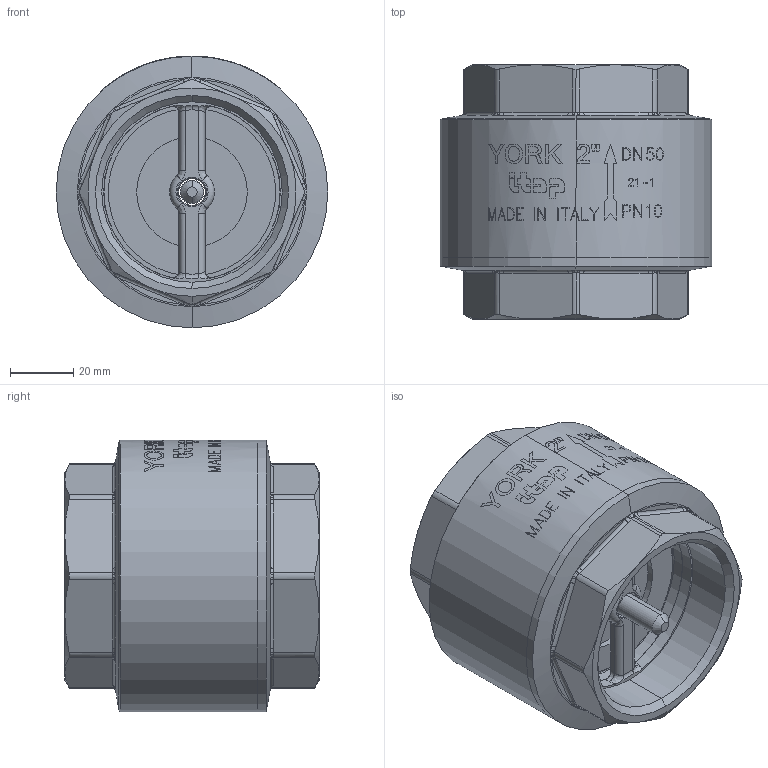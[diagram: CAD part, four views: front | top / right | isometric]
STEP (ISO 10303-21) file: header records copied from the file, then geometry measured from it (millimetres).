
FILE_DESCRIPTION (( 'STEP AP203' ), '1' );
FILE_NAME ('1030200.step', '2020-09-01T13:18:37', ( '' ), ( '' ), 'SwSTEP 2.0', 'SolidWorks 2018', '' );
FILE_SCHEMA (( 'CONFIG_CONTROL_DESIGN' ));
Length unit declared in the file: millimetre
Products named in the file (1): 1030200
Bounding box: 86 x 80.48 x 86 mm (x, y, z)
Surface area: 51509 mm2 (no closed solid volume)
Topology: 0 solids, 8 shells, 360 faces, 1384 edges, 1069 vertices
Faces by surface type: bspline 116, cylinder 112, plane 51, cone 42, torus 35, sphere 4
Entity records: 19932 total; most frequent: CARTESIAN_POINT 9508, ORIENTED_EDGE 2694, DIRECTION 1518, EDGE_CURVE 1380, VERTEX_POINT 1069, B_SPLINE_CURVE_WITH_KNOTS 742, AXIS2_PLACEMENT_3D 643, EDGE_LOOP 412
